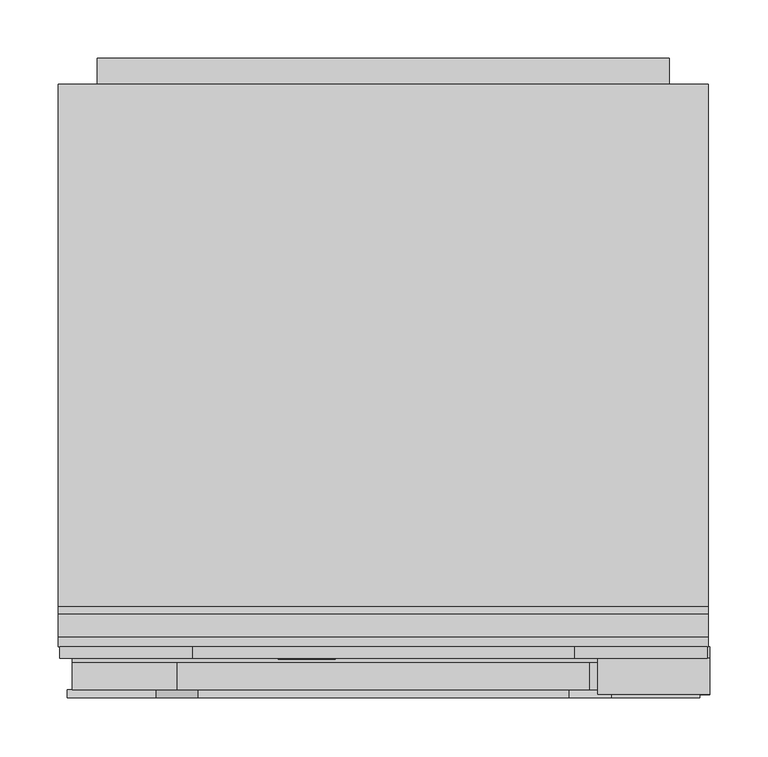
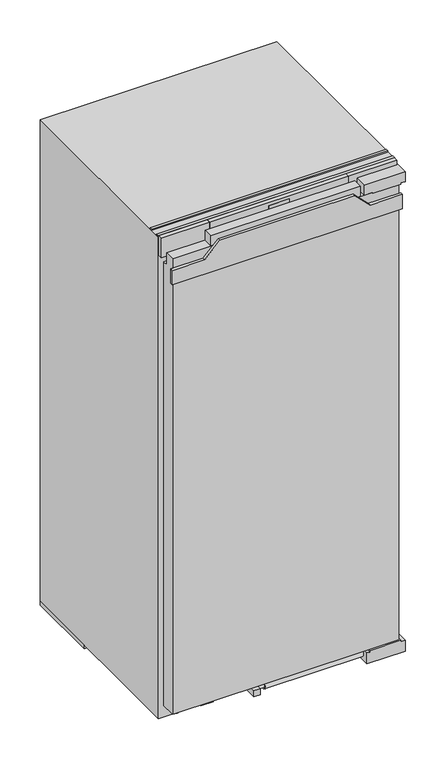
"""IFC4 building model written with IfcOpenShell, lengths in millimetres: proxy geometry, 11641100_EU1_K7364D : 36736400_EU1_11641100_K7364D."""

import ifcopenshell
import ifcopenshell.guid

model = None  # the IFC model being written
_history = None  # IfcOwnerHistory: only IFC2X3 demands one
_inside = {}  # id of a spatial element -> (the spatial element, [elements in it])
_under = {}  # id of a project, library or spatial element -> (it, [spatial elements below it])
_declared = {}  # id of a project -> (the project, [libraries it declares])
_typed = {}  # id of a type object -> (the type object, [elements of that type])
_made_of = {}  # id of a material, layer set ... -> (it, [elements and type objects made of it])


def new_model(schema):
    """Start an empty IFC model of exactly this schema.

    Asked for "IFC4X3", IfcOpenShell would pick the latest addendum, in which some entities
    have other attributes; the version numbers below select the first issue.
    IFC2X3 requires an IfcOwnerHistory on every rooted entity: one is made here for all.
    """
    global model, _history
    if schema == "IFC4X3":
        model = ifcopenshell.file(schema_version=(4, 3, 0, 0))
    else:
        model = ifcopenshell.file(schema=schema)
    _inside.clear()
    _under.clear()
    _declared.clear()
    _typed.clear()
    _made_of.clear()
    _history = None
    if model.schema == "IFC2X3":
        org = make("IfcOrganization", Name="unknown")
        user = make(
            "IfcPersonAndOrganization",
            ThePerson=make("IfcPerson", FamilyName="unknown"),
            TheOrganization=org,
        )
        app = make(
            "IfcApplication",
            ApplicationDeveloper=org,
            Version="unknown",
            ApplicationFullName="unknown",
            ApplicationIdentifier="unknown",
        )
        _history = make(
            "IfcOwnerHistory",
            OwningUser=user,
            OwningApplication=app,
            ChangeAction="ADDED",
            CreationDate=0,
        )
    return model


def make(cls, **values):
    """One entity of the class cls with the attributes given. An attribute that is None is left unset."""
    return model.create_entity(
        cls, **{name: value for name, value in values.items() if value is not None}
    )


def rooted(cls, **values):
    """An entity with a GlobalId (a new one), such as an element, a storey or a relation."""
    return make(cls, GlobalId=ifcopenshell.guid.new(), OwnerHistory=_history, **values)


def si_unit(unit_type, name, prefix=None):
    """IfcSIUnit, for example si_unit("LENGTHUNIT", "METRE", prefix="MILLI")."""
    return make("IfcSIUnit", UnitType=unit_type, Prefix=prefix, Name=name)


def assignment(units):
    """IfcUnitAssignment: the units of a project."""
    return None if units is None else make("IfcUnitAssignment", Units=units)


def point(xyz):
    """IfcCartesianPoint."""
    return None if xyz is None else make("IfcCartesianPoint", Coordinates=xyz)


def direction(xyz):
    """IfcDirection."""
    return None if xyz is None else make("IfcDirection", DirectionRatios=xyz)


def frame(location, z_axis=None, x_axis=None):
    """IfcAxis2Placement3D, a coordinate frame: its origin and axes. An axis left out is left unset."""
    return make(
        "IfcAxis2Placement3D",
        Location=point(location),
        Axis=direction(z_axis),
        RefDirection=direction(x_axis),
    )


def frame_2d(location, x_axis=None):
    """IfcAxis2Placement2D, a coordinate frame in the plane: its origin and x axis."""
    return make(
        "IfcAxis2Placement2D", Location=point(location), RefDirection=direction(x_axis)
    )


def origin():
    """The frame at (0, 0, 0) with its axes left unset."""
    return frame((0.0, 0.0, 0.0))


def origin_with_axes():
    """The frame at (0, 0, 0) with the z axis (0, 0, 1) and the x axis (1, 0, 0) written out."""
    return frame((0.0, 0.0, 0.0), z_axis=(0.0, 0.0, 1.0), x_axis=(1.0, 0.0, 0.0))


def place(relative_to, where):
    """IfcLocalPlacement: puts the frame where relative to a parent placement (None: the world)."""
    return make(
        "IfcLocalPlacement", PlacementRelTo=relative_to, RelativePlacement=where
    )


def context(
    kind, dimensions, precision=None, world=None, true_north=None, identifier=None
):
    """IfcGeometricRepresentationContext, for example the 3D "Model" context."""
    return make(
        "IfcGeometricRepresentationContext",
        ContextIdentifier=identifier,
        ContextType=kind,
        CoordinateSpaceDimension=dimensions,
        Precision=precision,
        WorldCoordinateSystem=world,
        TrueNorth=true_north,
    )


def project(units=None, contexts=None):
    """IfcProject with its units and contexts."""
    return rooted(
        "IfcProject",
        Name="project",
        RepresentationContexts=contexts,
        UnitsInContext=assignment(units),
    )


def spatial(cls, under=None, at=None, **own):
    """A site, building, storey or space (cls), placed at a placement, below another one or the project."""
    s = rooted(cls, ObjectPlacement=at, **own)
    if under is not None:
        _under.setdefault(under.id(), (under, []))[1].append(s)
    return s


def polyline(points):
    """IfcPolyline through the points."""
    return make("IfcPolyline", Points=[point(p) for p in points])


def circle_curve(where, radius):
    """IfcCircle in the frame where."""
    return make("IfcCircle", Position=where, Radius=radius)


def ellipse_curve(where, semi_axis1, semi_axis2):
    """IfcEllipse in the frame where."""
    return make(
        "IfcEllipse", Position=where, SemiAxis1=semi_axis1, SemiAxis2=semi_axis2
    )


def trimmed(basis, trim1, trim2, sense, master):
    """IfcTrimmedCurve: the piece of a basis curve between two trims."""
    return make(
        "IfcTrimmedCurve",
        BasisCurve=basis,
        Trim1=trim1,
        Trim2=trim2,
        SenseAgreement=sense,
        MasterRepresentation=master,
    )


def segment(curve, same_sense, transition):
    """IfcCompositeCurveSegment."""
    return make(
        "IfcCompositeCurveSegment",
        Transition=transition,
        SameSense=same_sense,
        ParentCurve=curve,
    )


def composite_curve(segments, self_intersect=None):
    """IfcCompositeCurve: segments joined end to end."""
    return make("IfcCompositeCurve", Segments=segments, SelfIntersect=self_intersect)


def outline(outer, holes=None, kind="AREA"):
    """IfcArbitraryClosedProfileDef: a profile drawn as a closed curve; with holes, ...WithVoids."""
    if holes is None:
        return make("IfcArbitraryClosedProfileDef", ProfileType=kind, OuterCurve=outer)
    return make(
        "IfcArbitraryProfileDefWithVoids",
        ProfileType=kind,
        OuterCurve=outer,
        InnerCurves=holes,
    )


def extrude(swept, where, along, depth):
    """IfcExtrudedAreaSolid: the profile swept, set in the frame where, extruded along a direction by depth."""
    return make(
        "IfcExtrudedAreaSolid",
        SweptArea=swept,
        Position=where,
        ExtrudedDirection=direction(along),
        Depth=depth,
    )


def faces_of(points, faces, orient=None, outer=None):
    """IfcFace entities. A face is a list of loops; a loop is a list of indices into points, from 0.

    orient and outer hold one flag for each loop. By default every Orientation is true, the
    first loop of a face is its IfcFaceOuterBound and the others are IfcFaceBound.
    """
    made = []
    for i, loops in enumerate(faces):
        bounds = []
        for j, loop in enumerate(loops):
            is_outer = j == 0 if outer is None else outer[i][j]
            bounds.append(
                make(
                    "IfcFaceOuterBound" if is_outer else "IfcFaceBound",
                    Bound=make("IfcPolyLoop", Polygon=[points[k] for k in loop]),
                    Orientation=True if orient is None else orient[i][j],
                )
            )
        made.append(make("IfcFace", Bounds=bounds))
    return made


def faceted_brep(points, faces, orient=None, outer=None, voids=None):
    """IfcFacetedBrep: a solid bounded by flat faces; with voids (closed shells), ...WithVoids."""
    shared = [point(p) for p in points]
    hull = make("IfcClosedShell", CfsFaces=faces_of(shared, faces, orient, outer))
    if voids is None:
        return make("IfcFacetedBrep", Outer=hull)
    return make(
        "IfcFacetedBrepWithVoids",
        Outer=hull,
        Voids=[
            make(cls, CfsFaces=faces_of(shared, fs, o, b)) for cls, fs, o, b in voids
        ],
    )


def shape(context_of_items, identifier, shape_type, items):
    """IfcShapeRepresentation: the items that make up one representation, for example the "Body"."""
    return make(
        "IfcShapeRepresentation",
        ContextOfItems=context_of_items,
        RepresentationIdentifier=identifier,
        RepresentationType=shape_type,
        Items=items,
    )


def source(mapping_origin, context_of_items, identifier, shape_type, items):
    """IfcRepresentationMap: a shape defined once, which mapped items show again and again."""
    return make(
        "IfcRepresentationMap",
        MappingOrigin=mapping_origin,
        MappedRepresentation=shape(context_of_items, identifier, shape_type, items),
    )


def transform(
    local_origin,
    x_axis=None,
    y_axis=None,
    z_axis=None,
    scale=None,
    scale2=None,
    scale3=None,
    uniform=True,
):
    """IfcCartesianTransformationOperator3D, or its non-uniform kind. x_axis, y_axis, z_axis: its Axis1, 2, 3."""
    if uniform:
        return make(
            "IfcCartesianTransformationOperator3D",
            Axis1=direction(x_axis),
            Axis2=direction(y_axis),
            LocalOrigin=point(local_origin),
            Scale=scale,
            Axis3=direction(z_axis),
        )
    return make(
        "IfcCartesianTransformationOperator3DnonUniform",
        Axis1=direction(x_axis),
        Axis2=direction(y_axis),
        LocalOrigin=point(local_origin),
        Scale=scale,
        Axis3=direction(z_axis),
        Scale2=scale2,
        Scale3=scale3,
    )


def mapped(mapping_source, mapping_target):
    """IfcMappedItem: shows the shape of a source again, moved by a transform."""
    return make(
        "IfcMappedItem", MappingSource=mapping_source, MappingTarget=mapping_target
    )


def made_of(thing, what):
    """Note that an element or type object is made of a material, layer set ...; save() writes the relation."""
    if what is not None:
        _made_of.setdefault(what.id(), (what, []))[1].append(thing)
    return thing


def element(
    cls,
    number,
    at=None,
    inside=None,
    cuts=None,
    type_object=None,
    material=None,
    context=None,
    identifier="Body",
    shape_type=None,
    held_by="IfcProductDefinitionShape",
    body=None,
    shapes=None,
    **own,
):
    """One element of the class cls, such as IfcWall. Its Tag is "e" and its number.

    at: its placement. inside: the storey or other place that contains it. cuts: it is an
    opening in that element (IfcRelVoidsElement). A single representation is given by context,
    identifier, shape_type and body (its items); several are given by shapes. held_by: the class
    of the entity that holds the representations. save() writes the other relations.
    """
    e = rooted(cls, Tag="e%d" % number, ObjectPlacement=at, **own)
    if body is not None:
        shapes = [shape(context, identifier, shape_type, body)]
    if shapes is not None:
        e.Representation = make(held_by, Representations=shapes)
    if inside is not None:
        _inside.setdefault(inside.id(), (inside, []))[1].append(e)
    if cuts is not None:
        rooted(
            "IfcRelVoidsElement", RelatingBuildingElement=cuts, RelatedOpeningElement=e
        )
    if type_object is not None:
        _typed.setdefault(type_object.id(), (type_object, []))[1].append(e)
    return made_of(e, material)


def aggregate(whole, parts):
    """IfcRelAggregates: a whole, such as a stair, and the parts it consists of."""
    return rooted("IfcRelAggregates", RelatingObject=whole, RelatedObjects=parts)


def save(model, path):
    """Write the relations noted so far, then the file.

    IfcRelAggregates (storeys below a building ...), IfcRelContainedInSpatialStructure (elements
    in a storey), IfcRelDefinesByType, IfcRelAssociatesMaterial and IfcRelDeclares: one each for
    every whole, place, type object, material and project.
    """
    for whole, parts in _under.values():
        aggregate(whole, parts)
    for where, things in _inside.values():
        rooted(
            "IfcRelContainedInSpatialStructure",
            RelatedElements=things,
            RelatingStructure=where,
        )
    for kind, things in _typed.values():
        rooted("IfcRelDefinesByType", RelatedObjects=things, RelatingType=kind)
    for what, things in _made_of.values():
        rooted("IfcRelAssociatesMaterial", RelatedObjects=things, RelatingMaterial=what)
    for by, libraries in _declared.values():
        rooted("IfcRelDeclares", RelatingContext=by, RelatedDefinitions=libraries)
    model.write(path)


def plane_surface(at):
    """IfcPlane: the flat surface through the origin of the frame at, square to its z axis."""
    return make("IfcPlane", Position=at)


def cylinder_surface(at, radius):
    """IfcCylindricalSurface: all points at the distance radius from the z axis of the frame at."""
    return make("IfcCylindricalSurface", Position=at, Radius=radius)


def revolved_surface(curve, axis_point, axis_direction):
    """IfcSurfaceOfRevolution: the curve turned about the line through axis_point along axis_direction."""
    return make(
        "IfcSurfaceOfRevolution",
        SweptCurve=make("IfcArbitraryOpenProfileDef", ProfileType="CURVE", Curve=curve),
        AxisPosition=make("IfcAxis1Placement", Location=point(axis_point), Axis=direction(axis_direction)),
    )


def extruded_surface(curve, direction_of_extrusion, depth):
    """IfcSurfaceOfLinearExtrusion: the curve pushed along a direction by depth."""
    return make(
        "IfcSurfaceOfLinearExtrusion",
        SweptCurve=make("IfcArbitraryOpenProfileDef", ProfileType="CURVE", Curve=curve),
        ExtrudedDirection=direction(direction_of_extrusion),
        Depth=depth,
    )


def advanced_brep(points, edges, surfaces, faces):
    """IfcAdvancedBrep: a solid bounded by faces that lie on surfaces and meet in shared edges.

    An edge is (start, end): straight between two places in points (the first is 0);
    or (start, end, curve); or (start, end, curve, False) where it runs against its curve.
    A face is (place in surfaces, loops), or (place, loops, False) where it looks against
    its surface's normal. A loop lists edges by number (the first is 1), with a minus sign
    where the edge is run from its end to its start. The first loop is the outer one.
    """
    corners = [point(p) for p in points]
    vertices = [make("IfcVertexPoint", VertexGeometry=c) for c in corners]
    made = []
    for start, end, *more in edges:
        made.append(
            make(
                "IfcEdgeCurve",
                EdgeStart=vertices[start],
                EdgeEnd=vertices[end],
                EdgeGeometry=more[0] if more else make("IfcPolyline", Points=[corners[start], corners[end]]),
                SameSense=more[1] if len(more) > 1 else True,
            )
        )
    hull = []
    for where, loops, *sense in faces:
        bounds = []
        for j, loop in enumerate(loops):
            ring = [make("IfcOrientedEdge", EdgeElement=made[abs(k) - 1], Orientation=k > 0) for k in loop]
            bounds.append(
                make(
                    "IfcFaceOuterBound" if j == 0 else "IfcFaceBound",
                    Bound=make("IfcEdgeLoop", EdgeList=ring),
                    Orientation=True,
                )
            )
        hull.append(make("IfcAdvancedFace", Bounds=bounds, FaceSurface=surfaces[where], SameSense=sense[0] if sense else True))
    return make("IfcAdvancedBrep", Outer=make("IfcClosedShell", CfsFaces=hull))


def specialty_equipment_fe703080(model_context):
    return source(origin(), model_context, "Body", "SolidModel", [
        advanced_brep(
        [(-46.64, 33.0, 1184.896), (-46.64, 33.0, 1185.704), (-41.288, 33.0, 1185.704), (-50.6, 33.0, 1185.704), (-48.4, 33.0, 1183.0), (-41.424, 33.0, 1184.896), (-43.84, 33.0, 1184.896), (-45.744, 33.0, 1184.0), (-46.64, 33.0, 1186.728), (-46.64, 33.0, 1187.6), (-45.272, 33.0, 1187.6), (-45.272, 33.0, 1186.728), (-46.64, 34.0, 1184.896), (-45.744, 34.0, 1184.0), (-43.84, 34.0, 1184.896), (-41.424, 34.0, 1184.896), (-48.4, 34.0, 1183.0), (-50.6, 34.0, 1185.704), (-41.288, 34.0, 1185.704), (-46.64, 34.0, 1185.704), (-46.64, 34.0, 1186.728), (-45.272, 34.0, 1186.728), (-45.272, 34.0, 1187.6), (-46.64, 34.0, 1187.6)],
        [
            (0, 1),
            (1, 2),
            (2, 3, ellipse_curve(frame((-45.944, 33.0, 1185.704), z_axis=(0.0, -1.0, 0.0), x_axis=(-1.0, 0.0, 0.0)), 4.656, 3.848)),
            (3, 4, circle_curve(frame((-47.5039564, 33.0, 1185.976), z_axis=(0.0, -1.0, 0.0), x_axis=(0.0, 0.0, -1.0)), 3.1079688)),
            (4, 5, circle_curve(frame((-46.0372064, 33.0, 1188.088), z_axis=(0.0, -1.0, 0.0), x_axis=(0.0, 0.0, -1.0)), 5.6098607)),
            (5, 6),
            (6, 7, circle_curve(frame((-45.3529412, 33.0, 1185.64), z_axis=(0.0, 1.0, 0.0), x_axis=(0.0, 0.0, -1.0)), 1.6859795)),
            (7, 0, circle_curve(frame((-45.744, 33.0, 1184.896), z_axis=(0.0, 1.0, 0.0), x_axis=(0.0, 0.0, -1.0)), 0.896)),
            (8, 9),
            (9, 10, circle_curve(frame((-45.956, 33.0, 1187.6), z_axis=(0.0, 1.0, 0.0), x_axis=(0.0, 0.0, -1.0)), 0.684)),
            (10, 11),
            (11, 8),
            (12, 13, circle_curve(frame((-45.744, 34.0, 1184.896), z_axis=(0.0, -1.0, 0.0), x_axis=(0.0, 0.0, -1.0)), 0.896)),
            (13, 14, circle_curve(frame((-45.3529412, 34.0, 1185.64), z_axis=(0.0, -1.0, 0.0), x_axis=(0.0, 0.0, -1.0)), 1.6859795)),
            (14, 15),
            (15, 16, circle_curve(frame((-46.0372064, 34.0, 1188.088), z_axis=(0.0, 1.0, 0.0), x_axis=(0.0, 0.0, -1.0)), 5.6098607)),
            (16, 17, circle_curve(frame((-47.5039564, 34.0, 1185.976), z_axis=(0.0, 1.0, 0.0), x_axis=(0.0, 0.0, -1.0)), 3.1079688)),
            (17, 18, ellipse_curve(frame((-45.944, 34.0, 1185.704), z_axis=(0.0, 1.0, 0.0), x_axis=(-1.0, 0.0, 0.0)), 4.656, 3.848)),
            (18, 19),
            (19, 12),
            (20, 21),
            (21, 22),
            (22, 23, circle_curve(frame((-45.956, 34.0, 1187.6), z_axis=(0.0, -1.0, 0.0), x_axis=(0.0, 0.0, -1.0)), 0.684)),
            (23, 20),
            (0, 12),
            (19, 1),
            (18, 2),
            (5, 15),
            (14, 6),
            (17, 3),
            (13, 7),
            (16, 4),
            (8, 20),
            (23, 9),
            (22, 10),
            (21, 11),
        ],
        [
            plane_surface(frame((-46.64, 33.0, 1185.704), z_axis=(0.0, -1.0, 0.0), x_axis=(0.0, 0.0, 1.0))),
            plane_surface(frame((-46.64, 34.0, 1185.704), z_axis=(0.0, 1.0, 0.0), x_axis=(0.0, 0.0, -1.0))),
            plane_surface(frame((-46.64, 33.0, 1184.896), z_axis=(1.0, 0.0, 0.0), x_axis=(0.0, 1.0, 0.0))),
            plane_surface(frame((-46.64, 33.0, 1185.704), z_axis=(0.0, 0.0, -1.0), x_axis=(0.0, 1.0, 0.0))),
            plane_surface(frame((-41.424, 33.0, 1184.896), z_axis=(0.0, 0.0, 1.0), x_axis=(0.0, 1.0, 0.0))),
            extruded_surface(trimmed(ellipse_curve(frame((-45.944, 35.0, 1185.704), z_axis=(0.0, -1.0, 0.0), x_axis=(-1.0, 0.0, 0.0)), 4.656, 3.848), [point((-41.288, 35.0, 1185.704))], [point((-50.6, 35.0, 1185.704))], True, "CARTESIAN"), (0.0, -1.0, 0.0), 1.0),
            revolved_surface(polyline([(-45.3529412, 34.0, 1183.9540205), (-45.3529412, 33.0, 1183.9540205)]), (-45.3529412, 34.0, 1185.64), (0.0, 1.0, 0.0)),
            revolved_surface(polyline([(-45.744, 34.0, 1184.0), (-45.744, 33.0, 1184.0)]), (-45.744, 34.0, 1184.896), (0.0, 1.0, 0.0)),
            cylinder_surface(frame((-47.5039564, 34.0, 1185.976), z_axis=(0.0, -1.0, 0.0), x_axis=(0.0, 0.0, -1.0)), 3.1079688),
            cylinder_surface(frame((-46.0372064, 34.0, 1188.088), z_axis=(0.0, -1.0, 0.0), x_axis=(0.0, 0.0, -1.0)), 5.6098607),
            plane_surface(frame((-46.64, 33.0, 1186.728), z_axis=(1.0, 0.0, 0.0), x_axis=(0.0, 1.0, 0.0))),
            revolved_surface(polyline([(-45.956, 34.0, 1186.916), (-45.956, 33.0, 1186.916)]), (-45.956, 34.0, 1187.6), (0.0, 1.0, 0.0)),
            plane_surface(frame((-45.272, 33.0, 1187.6), z_axis=(-1.0, 0.0, 0.0), x_axis=(0.0, 1.0, 0.0))),
            plane_surface(frame((-45.272, 33.0, 1186.728), z_axis=(0.0, 0.0, 1.0), x_axis=(0.0, 1.0, 0.0))),
        ],
        [
            (0, [[1, 2, 3, 4, 5, 6, 7, 8], [9, 10, 11, 12]]),
            (1, [[13, 14, 15, 16, 17, 18, 19, 20], [21, 22, 23, 24]]),
            (2, [[-1, 25, -20, 26]]),
            (3, [[-2, -26, -19, 27]]),
            (4, [[-6, 28, -15, 29]]),
            (5, [[-3, -27, -18, 30]]),
            (6, [[-7, -29, -14, 31]]),
            (7, [[-8, -31, -13, -25]]),
            (8, [[-4, -30, -17, 32]]),
            (9, [[-5, -32, -16, -28]]),
            (10, [[-9, 33, -24, 34]]),
            (11, [[-10, -34, -23, 35]]),
            (12, [[-11, -35, -22, 36]]),
            (13, [[-12, -36, -21, -33]]),
        ],
    ),
        advanced_brep(
        [(-63.336, 33.0, 1184.896), (-63.336, 33.0, 1185.704), (-57.984, 33.0, 1185.704), (-67.296, 33.0, 1185.704), (-65.096, 33.0, 1183.0), (-58.12, 33.0, 1184.896), (-60.536, 33.0, 1184.896), (-62.44, 33.0, 1184.0), (-63.336, 33.0, 1186.728), (-63.336, 33.0, 1187.6), (-61.968, 33.0, 1187.6), (-61.968, 33.0, 1186.728), (-63.336, 34.0, 1184.896), (-62.44, 34.0, 1184.0), (-60.536, 34.0, 1184.896), (-58.12, 34.0, 1184.896), (-65.096, 34.0, 1183.0), (-67.296, 34.0, 1185.704), (-57.984, 34.0, 1185.704), (-63.336, 34.0, 1185.704), (-63.336, 34.0, 1186.728), (-61.968, 34.0, 1186.728), (-61.968, 34.0, 1187.6), (-63.336, 34.0, 1187.6)],
        [
            (0, 1),
            (1, 2),
            (2, 3, ellipse_curve(frame((-62.64, 33.0, 1185.704), z_axis=(0.0, -1.0, 0.0), x_axis=(-1.0, 0.0, 0.0)), 4.656, 3.848)),
            (3, 4, circle_curve(frame((-64.1999564, 33.0, 1185.976), z_axis=(0.0, -1.0, 0.0), x_axis=(0.0, 0.0, -1.0)), 3.1079688)),
            (4, 5, circle_curve(frame((-62.7332064, 33.0, 1188.088), z_axis=(0.0, -1.0, 0.0), x_axis=(0.0, 0.0, -1.0)), 5.6098607)),
            (5, 6),
            (6, 7, circle_curve(frame((-62.0489412, 33.0, 1185.64), z_axis=(0.0, 1.0, 0.0), x_axis=(0.0, 0.0, -1.0)), 1.6859795)),
            (7, 0, circle_curve(frame((-62.44, 33.0, 1184.896), z_axis=(0.0, 1.0, 0.0), x_axis=(0.0, 0.0, -1.0)), 0.896)),
            (8, 9),
            (9, 10, circle_curve(frame((-62.652, 33.0, 1187.6), z_axis=(0.0, 1.0, 0.0), x_axis=(0.0, 0.0, -1.0)), 0.684)),
            (10, 11),
            (11, 8),
            (12, 13, circle_curve(frame((-62.44, 34.0, 1184.896), z_axis=(0.0, -1.0, 0.0), x_axis=(0.0, 0.0, -1.0)), 0.896)),
            (13, 14, circle_curve(frame((-62.0489412, 34.0, 1185.64), z_axis=(0.0, -1.0, 0.0), x_axis=(0.0, 0.0, -1.0)), 1.6859795)),
            (14, 15),
            (15, 16, circle_curve(frame((-62.7332064, 34.0, 1188.088), z_axis=(0.0, 1.0, 0.0), x_axis=(0.0, 0.0, -1.0)), 5.6098607)),
            (16, 17, circle_curve(frame((-64.1999564, 34.0, 1185.976), z_axis=(0.0, 1.0, 0.0), x_axis=(0.0, 0.0, -1.0)), 3.1079688)),
            (17, 18, ellipse_curve(frame((-62.64, 34.0, 1185.704), z_axis=(0.0, 1.0, 0.0), x_axis=(-1.0, 0.0, 0.0)), 4.656, 3.848)),
            (18, 19),
            (19, 12),
            (20, 21),
            (21, 22),
            (22, 23, circle_curve(frame((-62.652, 34.0, 1187.6), z_axis=(0.0, -1.0, 0.0), x_axis=(0.0, 0.0, -1.0)), 0.684)),
            (23, 20),
            (0, 12),
            (19, 1),
            (18, 2),
            (5, 15),
            (14, 6),
            (17, 3),
            (13, 7),
            (16, 4),
            (8, 20),
            (23, 9),
            (22, 10),
            (21, 11),
        ],
        [
            plane_surface(frame((-63.336, 33.0, 1185.704), z_axis=(0.0, -1.0, 0.0), x_axis=(0.0, 0.0, 1.0))),
            plane_surface(frame((-63.336, 34.0, 1185.704), z_axis=(0.0, 1.0, 0.0), x_axis=(0.0, 0.0, -1.0))),
            plane_surface(frame((-63.336, 33.0, 1184.896), z_axis=(1.0, 0.0, 0.0), x_axis=(0.0, 1.0, 0.0))),
            plane_surface(frame((-63.336, 33.0, 1185.704), z_axis=(0.0, 0.0, -1.0), x_axis=(0.0, 1.0, 0.0))),
            plane_surface(frame((-58.12, 33.0, 1184.896), z_axis=(0.0, 0.0, 1.0), x_axis=(0.0, 1.0, 0.0))),
            extruded_surface(trimmed(ellipse_curve(frame((-62.64, 35.0, 1185.704), z_axis=(0.0, -1.0, 0.0), x_axis=(-1.0, 0.0, 0.0)), 4.656, 3.848), [point((-57.984, 35.0, 1185.704))], [point((-67.296, 35.0, 1185.704))], True, "CARTESIAN"), (0.0, -1.0, 0.0), 1.0),
            revolved_surface(polyline([(-62.0489412, 34.0, 1183.9540205), (-62.0489412, 33.0, 1183.9540205)]), (-62.0489412, 34.0, 1185.64), (0.0, 1.0, 0.0)),
            revolved_surface(polyline([(-62.44, 34.0, 1184.0), (-62.44, 33.0, 1184.0)]), (-62.44, 34.0, 1184.896), (0.0, 1.0, 0.0)),
            cylinder_surface(frame((-64.1999564, 34.0, 1185.976), z_axis=(0.0, -1.0, 0.0), x_axis=(0.0, 0.0, -1.0)), 3.1079688),
            cylinder_surface(frame((-62.7332064, 34.0, 1188.088), z_axis=(0.0, -1.0, 0.0), x_axis=(0.0, 0.0, -1.0)), 5.6098607),
            plane_surface(frame((-63.336, 33.0, 1186.728), z_axis=(1.0, 0.0, 0.0), x_axis=(0.0, 1.0, 0.0))),
            revolved_surface(polyline([(-62.652, 34.0, 1186.916), (-62.652, 33.0, 1186.916)]), (-62.652, 34.0, 1187.6), (0.0, 1.0, 0.0)),
            plane_surface(frame((-61.968, 33.0, 1187.6), z_axis=(-1.0, 0.0, 0.0), x_axis=(0.0, 1.0, 0.0))),
            plane_surface(frame((-61.968, 33.0, 1186.728), z_axis=(0.0, 0.0, 1.0), x_axis=(0.0, 1.0, 0.0))),
        ],
        [
            (0, [[1, 2, 3, 4, 5, 6, 7, 8], [9, 10, 11, 12]]),
            (1, [[13, 14, 15, 16, 17, 18, 19, 20], [21, 22, 23, 24]]),
            (2, [[-1, 25, -20, 26]]),
            (3, [[-2, -26, -19, 27]]),
            (4, [[-6, 28, -15, 29]]),
            (5, [[-3, -27, -18, 30]]),
            (6, [[-7, -29, -14, 31]]),
            (7, [[-8, -31, -13, -25]]),
            (8, [[-4, -30, -17, 32]]),
            (9, [[-5, -32, -16, -28]]),
            (10, [[-9, 33, -24, 34]]),
            (11, [[-10, -34, -23, 35]]),
            (12, [[-11, -35, -22, 36]]),
            (13, [[-12, -36, -21, -33]]),
        ],
    ),
        extrude(outline(polyline([(1190.528, -72.08), (1189.232, -71.472), (1190.496, -68.76), (1191.792, -69.36), (1190.528, -72.08)])), frame((0.0, 33.0, 0.0), z_axis=(0.0, 1.0, 0.0), x_axis=(0.0, 0.0, 1.0)), (0.0, 0.0, 1.0), 1.0),
        extrude(outline(polyline([(1189.056, -74.056), (1187.624, -74.056), (1187.624, -73.104), (1184.344, -73.104), (1184.344, -74.056), (1183.0, -74.056), (1183.0, -67.744), (1184.344, -67.744), (1184.344, -68.672), (1189.056, -68.672), (1189.056, -74.056)])), frame((0.0, 33.0, 0.0), z_axis=(0.0, 1.0, 0.0), x_axis=(0.0, 0.0, 1.0)), (0.0, 0.0, 1.0), 1.0),
        extrude(outline(polyline([(1189.696, -57.536), (1189.696, -56.576), (1184.344, -56.576), (1184.344, -57.536), (1183.0, -57.536), (1183.0, -51.048), (1184.344, -51.048), (1184.344, -52.032), (1191.0, -52.032), (1191.0, -57.536), (1189.696, -57.536)])), frame((0.0, 33.0, 0.0), z_axis=(0.0, 1.0, 0.0), x_axis=(0.0, 0.0, 1.0)), (0.0, 0.0, 1.0), 1.0),
        extrude(outline(polyline([(1189.696, -90.0), (1189.696, -89.032), (1184.344, -89.032), (1184.344, -90.0), (1183.0, -90.0), (1183.0, -86.48), (1184.344, -86.48), (1184.344, -87.44), (1187.7471247, -87.44), (1183.0, -83.864), (1187.8152223, -80.272), (1184.344, -80.272), (1184.344, -81.256), (1183.0, -81.256), (1183.0, -74.872), (1184.344, -74.872), (1184.344, -75.888), (1189.696, -75.888), (1189.696, -74.872), (1191.0, -74.872), (1191.0, -79.744), (1188.0, -82.08), (1191.0, -84.424), (1191.0, -90.0), (1189.696, -90.0)])), frame((0.0, 33.0, 0.0), z_axis=(0.0, 1.0, 0.0), x_axis=(0.0, 0.0, 1.0)), (0.0, 0.0, 1.0), 1.0),
        faceted_brep([(163.5, 34.0, 1212.0), (-163.5, 34.0, 1212.0), (-163.5, 34.0, 1163.0), (163.5, 34.0, 1163.0), (24.5, 34.0, 1205.0), (24.5, 34.0, 1169.0), (-24.5, 34.0, 1169.0), (-24.5, 34.0, 1205.0), (163.5, 44.0, 1212.0), (163.5, 44.0, 1163.0), (-163.5, 44.0, 1163.0), (-163.5, 44.0, 1212.0), (24.5, 35.0, 1205.0), (-24.5, 35.0, 1205.0), (-24.5, 35.0, 1169.0), (24.5, 35.0, 1169.0)], [[[0, 1, 2, 3], [4, 5, 6, 7]], [[8, 9, 10, 11]], [[0, 3, 9, 8]], [[3, 2, 10, 9]], [[2, 1, 11, 10]], [[1, 0, 8, 11]], [[12, 13, 14, 15]], [[12, 15, 5, 4]], [[15, 14, 6, 5]], [[14, 13, 7, 6]], [[13, 12, 4, 7]]]),
        extrude(outline(polyline([(163.5, 44.0), (277.5, 44.0), (277.5, 34.0), (163.5, 34.0), (163.5, 44.0)])), frame((0.0, 0.0, 1163.0), z_axis=(0.0, 0.0, 1.0), x_axis=(1.0, 0.0, 0.0)), (0.0, 0.0, 1.0), 49.0),
        extrude(outline(polyline([(-277.5, 44.0), (-163.5, 44.0), (-163.5, 34.0), (-277.5, 34.0), (-277.5, 44.0)])), frame((0.0, 0.0, 1163.0), z_axis=(0.0, 0.0, 1.0), x_axis=(1.0, 0.0, 0.0)), (0.0, 0.0, 1.0), 49.0),
        extrude(outline(polyline([(-24.5, 35.0), (24.5, 35.0), (24.5, 34.0), (-24.5, 34.0), (-24.5, 35.0)])), frame((0.0, 0.0, 1169.0), z_axis=(0.0, 0.0, 1.0), x_axis=(1.0, 0.0, 0.0)), (0.0, 0.0, 1.0), 36.0),
        extrude(outline(polyline([(1136.0, -245.0), (27.0, -245.0), (27.0, 245.0), (130.0, 245.0), (130.0, 180.0), (160.0, 180.0), (160.0, 245.0), (1136.0, 245.0), (1136.0, -245.0)])), frame((0.0, 526.0, 0.0), z_axis=(0.0, 1.0, 0.0), x_axis=(0.0, 0.0, 1.0)), (0.0, 0.0, 1.0), 22.0),
        extrude(outline(polyline([(-144.9296686, 52.0), (-174.0, 52.0), (-194.4880722, 346.0), (-165.4177409, 346.0), (-144.9296686, 52.0)])), origin_with_axes(), (0.0, 0.0, 1.0), 9.0),
        extrude(outline(polyline([(144.9296686, 52.0), (165.4177409, 346.0), (194.4880722, 346.0), (174.0, 52.0), (144.9296686, 52.0)])), origin_with_axes(), (0.0, 0.0, 1.0), 9.0),
        extrude(outline(polyline([(539.651012, 148.8988246), (539.651012, 150.150839), (546.8850603, 150.150839), (546.8850603, 140.1043073), (539.5027529, 140.1043073), (539.5027529, 141.3585545), (545.6152499, 141.3585545), (545.6152499, 144.6556887), (539.967462, 144.6556887), (539.967462, 145.9162842), (545.6270824, 145.9162842), (545.6270824, 148.8988246), (539.651012, 148.8988246)])), frame((193.5, 0.0, 0.0), z_axis=(1.0, 0.0, 0.0), x_axis=(0.0, 1.0, 0.0)), (0.0, 0.0, 1.0), 1.0),
        extrude(outline(polyline([(537.624075, 150.150839), (537.624075, 140.1043073), (531.3334819, 140.1043073), (531.3334819, 141.3573374), (536.3334819, 141.3573374), (536.3334819, 150.150839), (537.624075, 150.150839)])), frame((193.5, 0.0, 0.0), z_axis=(1.0, 0.0, 0.0), x_axis=(0.0, 1.0, 0.0)), (0.0, 0.0, 1.0), 1.0),
        advanced_brep(
        [(232.0, 526.0, 145.0), (217.0, 526.0, 145.0), (232.0, 547.5, 145.0), (217.0, 532.5, 145.0), (194.5, 547.5, 145.0), (194.5, 532.5, 145.0)],
        [
            (0, 1, circle_curve(frame((224.5, 526.0, 145.0), z_axis=(0.0, -1.0, 0.0), x_axis=(-1.0, 0.0, 0.0)), 7.5)),
            (1, 0, circle_curve(frame((224.5, 526.0, 145.0), z_axis=(0.0, -1.0, 0.0), x_axis=(-1.0, 0.0, 0.0)), 7.5)),
            (0, 2),
            (2, 3, ellipse_curve(frame((224.5, 540.0, 145.0), z_axis=(0.7071067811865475, -0.7071067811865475, 0.0), x_axis=(-0.7071067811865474, -0.7071067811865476, 0.0)), 10.6066017, 7.5)),
            (3, 1),
            (3, 2, ellipse_curve(frame((224.5, 540.0, 145.0), z_axis=(0.7071067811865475, -0.7071067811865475, 0.0), x_axis=(-0.7071067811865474, -0.7071067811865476, 0.0)), 10.6066017, 7.5)),
            (4, 5, circle_curve(frame((194.5, 540.0, 145.0), z_axis=(-1.0, 0.0, 0.0), x_axis=(0.0, -1.0, 0.0)), 7.5)),
            (5, 4, circle_curve(frame((194.5, 540.0, 145.0), z_axis=(-1.0, 0.0, 0.0), x_axis=(0.0, -1.0, 0.0)), 7.5)),
            (2, 4),
            (5, 3),
        ],
        [
            plane_surface(frame((224.5, 526.0, 145.0), z_axis=(0.0, -1.0, 0.0), x_axis=(0.0, 0.0, 1.0))),
            cylinder_surface(frame((224.5, 526.0, 145.0), z_axis=(0.0, -1.0, 0.0), x_axis=(-1.0, 0.0, 0.0)), 7.5),
            plane_surface(frame((194.5, 540.0, 145.0), z_axis=(-1.0, 0.0, 0.0), x_axis=(0.0, 0.0, 1.0))),
            cylinder_surface(frame((224.5, 540.0, 145.0), z_axis=(1.0, 0.0, 0.0), x_axis=(0.0, -1.0, 0.0)), 7.5),
        ],
        [
            (0, [[1, 2]]),
            (1, [[-1, 3, 4, 5]]),
            (1, [[-2, -5, 6, -3]]),
            (2, [[7, 8]]),
            (3, [[-4, 9, -8, 10]]),
            (3, [[-6, -10, -7, -9]]),
        ],
    ),
        extrude(outline(polyline([(-34.0, 44.0), (34.0, 44.0), (34.0, 35.0), (-34.0, 35.0), (-34.0, 44.0)])), frame((0.0, 0.0, 13.0), z_axis=(0.0, 0.0, 1.0), x_axis=(1.0, 0.0, 0.0)), (0.0, 0.0, 1.0), 19.0),
        extrude(outline(polyline([(-233.5, 44.0), (-233.5, 488.0), (233.5, 488.0), (233.5, 44.0), (-233.5, 44.0)])), frame((0.0, 0.0, 271.0), z_axis=(0.0, 0.0, 1.0), x_axis=(1.0, 0.0, 0.0)), (0.0, 0.0, 1.0), 3.0),
        extrude(outline(polyline([(-233.5, 180.0), (-233.5, 488.0), (233.5, 488.0), (233.5, 180.0), (-233.5, 180.0)])), frame((0.0, 0.0, 913.0), z_axis=(0.0, 0.0, 1.0), x_axis=(1.0, 0.0, 0.0)), (0.0, 0.0, 1.0), 221.0),
        extrude(outline(polyline([(-233.5, 350.0), (-233.5, 488.0), (233.5, 488.0), (233.5, 350.0), (-233.5, 350.0)])), frame((0.0, 0.0, 62.0), z_axis=(0.0, 0.0, 1.0), x_axis=(1.0, 0.0, 0.0)), (0.0, 0.0, 1.0), 188.0),
        extrude(outline(composite_curve([segment(trimmed(circle_curve(frame_2d((228.0, 64.0)), 11.0), [point((239.0, 64.0))], [point((217.0, 64.0))], False, "CARTESIAN"), True, "CONTINUOUS"), segment(trimmed(circle_curve(frame_2d((228.0, 64.0)), 11.0), [point((217.0, 64.0))], [point((239.0, 64.0))], False, "CARTESIAN"), True, "CONTINUOUS")], self_intersect=False)), origin_with_axes(), (0.0, 0.0, 1.0), 9.0),
        extrude(outline(composite_curve([segment(trimmed(circle_curve(frame_2d((-228.0, 64.0)), 11.0), [point((-217.0, 64.0))], [point((-239.0, 64.0))], False, "CARTESIAN"), True, "CONTINUOUS"), segment(trimmed(circle_curve(frame_2d((-228.0, 64.0)), 11.0), [point((-239.0, 64.0))], [point((-217.0, 64.0))], False, "CARTESIAN"), True, "CONTINUOUS")], self_intersect=False)), origin_with_axes(), (0.0, 0.0, 1.0), 9.0),
        extrude(outline(polyline([(278.5, 526.0), (278.5, 346.0), (-278.5, 346.0), (-278.5, 526.0), (278.5, 526.0)])), origin_with_axes(), (0.0, 0.0, 1.0), 9.0),
        extrude(outline(polyline([(278.5, 52.0), (278.5, 44.0), (-278.5, 44.0), (-278.5, 52.0), (278.5, 52.0)])), frame((0.0, 0.0, 1209.0), z_axis=(0.0, 0.0, 1.0), x_axis=(1.0, 0.0, 0.0)), (0.0, 0.0, 1.0), 3.0),
        extrude(outline(polyline([(278.5, 78.0), (278.5, 72.0), (-278.5, 72.0), (-278.5, 78.0), (278.5, 78.0)])), frame((0.0, 0.0, 1209.0), z_axis=(0.0, 0.0, 1.0), x_axis=(1.0, 0.0, 0.0)), (0.0, 0.0, 1.0), 3.0),
        faceted_brep([(278.5, 526.0, 1209.0), (-278.5, 526.0, 1209.0), (-278.5, 44.0, 1209.0), (278.5, 44.0, 1209.0), (278.5, 526.0, 9.0), (278.5, 44.0, 9.0), (-278.5, 44.0, 9.0), (-278.5, 526.0, 9.0), (233.5, 44.0, 62.0), (-233.5, 44.0, 62.0), (-233.5, 44.0, 64.0), (-233.5, 44.0, 570.0), (-233.5, 44.0, 1134.0), (233.5, 44.0, 1134.0), (233.5, 44.0, 570.0), (233.5, 44.0, 64.0), (233.5, 488.0, 1134.0), (-233.5, 488.0, 1134.0), (-233.5, 488.0, 570.0), (-233.5, 488.0, 64.0), (-233.5, 488.0, 62.0), (233.5, 488.0, 62.0), (233.5, 488.0, 64.0), (233.5, 488.0, 570.0)], [[[0, 1, 2, 3]], [[4, 5, 6, 7]], [[1, 0, 4, 7]], [[2, 1, 7, 6]], [[3, 2, 6, 5], [8, 9, 10, 11, 12, 13, 14, 15]], [[0, 3, 5, 4]], [[16, 17, 18, 19, 20, 21, 22, 23]], [[21, 8, 15, 14, 13, 16, 23, 22]], [[21, 20, 9, 8]], [[9, 20, 19, 18, 17, 12, 11, 10]], [[17, 16, 13, 12]]]),
        extrude(outline(polyline([(1114.0, 271.0), (1150.0, 271.0), (1150.0, 195.0), (1186.0, 159.0), (1186.0, -159.0), (1150.0, -195.0), (1150.0, -271.0), (1114.0, -271.0), (1114.0, 271.0)])), frame((0.0, 0.0, 0.0), z_axis=(0.0, 1.0, 0.0), x_axis=(0.0, 0.0, 1.0)), (0.0, 0.0, 1.0), 7.0),
        extrude(outline(composite_curve([segment(trimmed(circle_curve(frame_2d((-65.5, 25.0)), 6.5), [point((-72.0, 25.0))], [point((-59.0, 25.0))], False, "CARTESIAN"), True, "CONTINUOUS"), segment(trimmed(circle_curve(frame_2d((-65.5, 25.0)), 6.5), [point((-59.0, 25.0))], [point((-72.0, 25.0))], False, "CARTESIAN"), True, "CONTINUOUS")], self_intersect=False)), frame((0.0, 0.0, 29.0), z_axis=(0.0, 0.0, 1.0), x_axis=(1.0, 0.0, 0.0)), (0.0, 0.0, 1.0), 9.0),
        extrude(outline(polyline([(-74.0, 42.0), (-59.0, 42.0), (-59.0, 8.0), (-74.0, 8.0), (-74.0, 42.0)])), frame((0.0, 0.0, 14.0), z_axis=(0.0, 0.0, 1.0), x_axis=(1.0, 0.0, 0.0)), (0.0, 0.0, 1.0), 15.0),
        extrude(outline(polyline([(176.5, 7.0), (-176.5, 7.0), (-176.5, 30.0), (176.5, 30.0), (176.5, 7.0)])), frame((0.0, 0.0, 1174.0), z_axis=(0.0, 0.0, 1.0), x_axis=(1.0, 0.0, 0.0)), (0.0, 0.0, 1.0), 25.0),
        extrude(outline(polyline([(7.0, 38.0), (7.0, 1174.0), (30.0, 1174.0), (30.0, 1144.0), (44.0, 1144.0), (44.0, 38.0), (7.0, 38.0)])), frame((-266.5, 0.0, 0.0), z_axis=(1.0, 0.0, 0.0), x_axis=(0.0, 1.0, 0.0)), (0.0, 0.0, 1.0), 533.0),
        extrude(outline(polyline([(34.0, 189.5), (7.0, 189.5), (7.0, 279.5), (34.0, 279.5), (34.0, 268.5), (38.0, 268.5), (38.0, 195.5), (34.0, 195.5), (34.0, 189.5)])), frame((0.0, 3.0, 0.0), z_axis=(0.0, 1.0, 0.0), x_axis=(0.0, 0.0, 1.0)), (0.0, 0.0, 1.0), 41.0),
        extrude(outline(polyline([(1174.0, 203.5), (1174.0, 269.5), (1177.0, 269.5), (1177.0, 279.5), (1201.0, 279.5), (1201.0, 183.5), (1177.0, 183.5), (1177.0, 203.5), (1174.0, 203.5)])), frame((0.0, 3.0, 0.0), z_axis=(0.0, 1.0, 0.0), x_axis=(0.0, 0.0, 1.0)), (0.0, 0.0, 1.0), 31.0),
        extrude(outline(composite_curve([segment(trimmed(circle_curve(frame_2d((25.0, 23.0)), 6.0), [point((25.0, 29.0))], [point((25.0, 17.0))], False, "CARTESIAN"), True, "CONTINUOUS"), segment(trimmed(circle_curve(frame_2d((25.0, 23.0)), 6.0), [point((25.0, 17.0))], [point((25.0, 29.0))], False, "CARTESIAN"), True, "CONTINUOUS")], self_intersect=False)), frame((-59.0, 0.0, 0.0), z_axis=(1.0, 0.0, 0.0), x_axis=(0.0, 1.0, 0.0)), (0.0, 0.0, 1.0), 16.0),
        extrude(outline(composite_curve([segment(trimmed(circle_curve(frame_2d((25.0, 23.0)), 9.0), [point((25.0, 32.0))], [point((25.0, 14.0))], False, "CARTESIAN"), True, "CONTINUOUS"), segment(trimmed(circle_curve(frame_2d((25.0, 23.0)), 9.0), [point((25.0, 14.0))], [point((25.0, 32.0))], False, "CARTESIAN"), True, "CONTINUOUS")], self_intersect=False)), frame((-43.0, 0.0, 0.0), z_axis=(1.0, 0.0, 0.0), x_axis=(0.0, 1.0, 0.0)), (0.0, 0.0, 1.0), 232.5),
    ])


if __name__ == "__main__":
    model = new_model("IFC4")
    model_context = context("Model", 3, world=origin())
    ifc_project = project(units=[si_unit("LENGTHUNIT", "METRE", prefix="MILLI")], contexts=[model_context])
    site = spatial("IfcSite", under=ifc_project)
    building = spatial("IfcBuilding", under=site)
    placement = place(None, origin())
    specialty_equipment_shape = specialty_equipment_fe703080(model_context)
    element("IfcBuildingElementProxy", 1, Name="11641100_EU1_K7364D : 36736400_EU1_11641100_K7364D", ObjectType="11641100_EU1_K7364D : 36736400_EU1_11641100_K7364D", at=placement, inside=building, context=model_context, shape_type="MappedRepresentation", body=[
        mapped(specialty_equipment_shape, transform((0.0, 0.0, 0.0), x_axis=(1.0, 0.0, 0.0), y_axis=(0.0, 1.0, 0.0), z_axis=(0.0, 0.0, 1.0))),
    ])
    save(model, "model.ifc")
